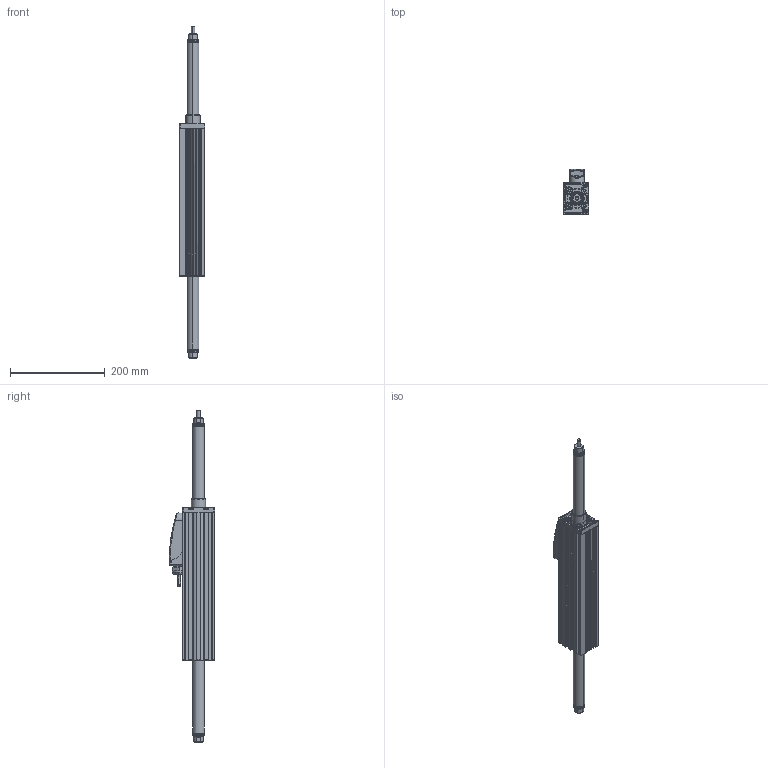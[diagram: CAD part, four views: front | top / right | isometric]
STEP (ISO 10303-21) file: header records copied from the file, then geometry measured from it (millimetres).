
FILE_DESCRIPTION (( 'STEP AP203' ), '1' );
FILE_NAME ('STA2510-309.STEP', '2011-10-13T14:25:19', ( 'showsden' ), ( '' ), 'SwSTEP 2.0', 'SolidWorks 2011', '' );
FILE_SCHEMA (( 'CONFIG_CONTROL_DESIGN' ));
Length unit declared in the file: millimetre
Products named in the file (14): STA2510-309; TRA25 Thrust Rod - Solid_TRA2510 (309); Screw, Cap Head, M4_Screw, Cap Head, M4 x 16; STA25 Bearing End Support - Solid_MP02261; STA25 MOTOR HOUSING (REV-B)_STA2510; ST25 POD ASSEMBLY (DLS)_ST25 POD ASSEMBLY (SOLID); MP02254-D ST25 Pod Base Gasket_MP02254; ST25 CABLE ASSEMBLY (REV2)_MA02197 (FLEXING); POWER CABLE_FLEXING (POWER); SIGNAL CABLE_FLEXING (SIGNAL); PG16 Gland Nut (REV2)_PG16 (REV 2); Screw, Button Head, M3_Screw, Button Head, M3 x 10; Screw, Cap Head, M2.5_Screw, Cap Head, M2.5 x 6; ST25 POD (DLS)_ST25 POD (SOLID)
Assembly tree (20 placements, depth 4):
  STA2510-309
    ST25 POD ASSEMBLY (DLS)_ST25 POD ASSEMBLY (SOLID)
      Screw, Cap Head, M2.5_Screw, Cap Head, M2.5 x 6  x2
      ST25 POD (DLS)_ST25 POD (SOLID)
      Screw, Button Head, M3_Screw, Button Head, M3 x 10  x4
      ST25 CABLE ASSEMBLY (REV2)_MA02197 (FLEXING)
        SIGNAL CABLE_FLEXING (SIGNAL)
        POWER CABLE_FLEXING (POWER)
        PG16 Gland Nut (REV2)_PG16 (REV 2)
      MP02254-D ST25 Pod Base Gasket_MP02254
    Screw, Cap Head, M4_Screw, Cap Head, M4 x 16  x4
    TRA25 Thrust Rod - Solid_TRA2510 (309)
    STA25 MOTOR HOUSING (REV-B)_STA2510
    STA25 Bearing End Support - Solid_MP02261
Bounding box: 54 x 95.5 x 702 mm (x, y, z)
Volume: 1231879.7 mm3; surface area: 288985.3 mm2
Topology: 18 solids, 18 shells, 1636 faces, 4226 edges, 2687 vertices
Faces by surface type: plane 567, cylinder 516, bspline 365, cone 116, torus 56, sphere 16
Entity records: 75343 total; most frequent: CARTESIAN_POINT 39247, ORIENTED_EDGE 7888, DIRECTION 6221, EDGE_CURVE 3944, VERTEX_POINT 2531, AXIS2_PLACEMENT_3D 2326, EDGE_LOOP 1659, LINE 1569
